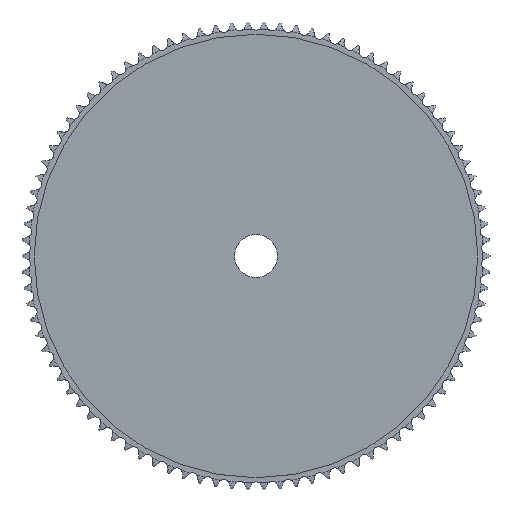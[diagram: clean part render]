
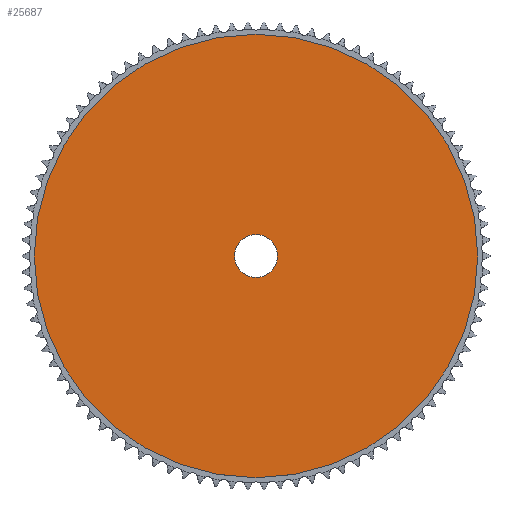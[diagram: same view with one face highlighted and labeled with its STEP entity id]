
A CAD part, top view. The second image highlights one B-rep face of the part: STEP entity #25687.
In plain terms, the highlighted planar face has unit normal (0, 0, 1).
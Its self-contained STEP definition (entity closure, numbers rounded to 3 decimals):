
#14467=CARTESIAN_POINT('',(0.,0.,2.));
#14468=DIRECTION('',(0.,0.,-1.));
#14469=DIRECTION('',(-1.,0.,0.));
#14470=AXIS2_PLACEMENT_3D('',#14467,#14468,#14469);
#14475=CARTESIAN_POINT('',(0.,0.,2.));
#14476=DIRECTION('',(0.,0.,-1.));
#14477=DIRECTION('',(1.,0.,0.));
#14478=AXIS2_PLACEMENT_3D('',#14475,#14476,#14477);
#14483=CARTESIAN_POINT('',(0.,0.,2.));
#14484=DIRECTION('',(0.,0.,1.));
#14485=DIRECTION('',(1.,0.,0.));
#14486=AXIS2_PLACEMENT_3D('',#14483,#14484,#14485);
#14491=CARTESIAN_POINT('',(0.,0.,2.));
#14492=DIRECTION('',(0.,0.,1.));
#14493=DIRECTION('',(-1.,0.,0.));
#14494=AXIS2_PLACEMENT_3D('',#14491,#14492,#14493);
#16042=CARTESIAN_POINT('',(-82.461,0.,2.));
#16043=CARTESIAN_POINT('',(82.461,0.,2.));
#16044=VERTEX_POINT('',#16042);
#16045=VERTEX_POINT('',#16043);
#16062=CARTESIAN_POINT('',(8.,0.,2.));
#16063=VERTEX_POINT('',#16062);
#16064=CARTESIAN_POINT('',(-8.,0.,2.));
#16065=VERTEX_POINT('',#16064);
#25672=CARTESIAN_POINT('',(0.,0.,2.));
#25673=DIRECTION('',(0.,0.,1.));
#25674=DIRECTION('',(1.,0.,0.));
#25675=AXIS2_PLACEMENT_3D('',#25672,#25673,#25674);
#25676=PLANE('',#25675);
#25677=ORIENTED_EDGE('',*,*,#25624,.T.);
#25678=ORIENTED_EDGE('',*,*,#25653,.T.);
#25679=EDGE_LOOP('',(#25677,#25678));
#25680=FACE_OUTER_BOUND('',#25679,.F.);
#25682=ORIENTED_EDGE('',*,*,#25681,.T.);
#25684=ORIENTED_EDGE('',*,*,#25683,.T.);
#25685=EDGE_LOOP('',(#25682,#25684));
#25686=FACE_BOUND('',#25685,.F.);
#25687=ADVANCED_FACE('',(#25680,#25686),#25676,.T.);
#14471=CIRCLE('',#14470,82.461);
#14479=CIRCLE('',#14478,82.461);
#14487=CIRCLE('',#14486,8.);
#14495=CIRCLE('',#14494,8.);
#25624=EDGE_CURVE('',#16044,#16045,#14471,.T.);
#25653=EDGE_CURVE('',#16045,#16044,#14479,.T.);
#25681=EDGE_CURVE('',#16063,#16065,#14487,.T.);
#25683=EDGE_CURVE('',#16065,#16063,#14495,.T.);
